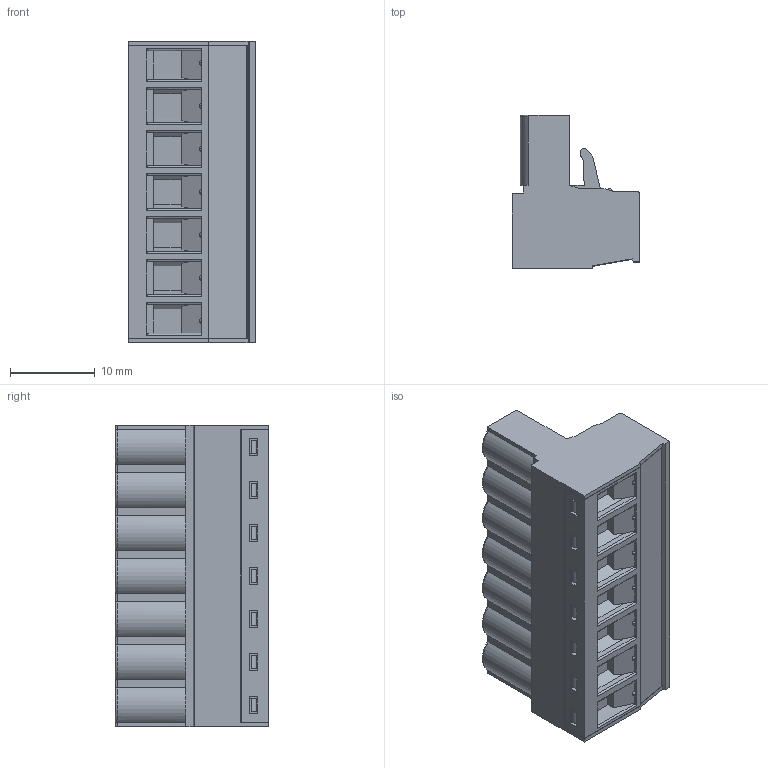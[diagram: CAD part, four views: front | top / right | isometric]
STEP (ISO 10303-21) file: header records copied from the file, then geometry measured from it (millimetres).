
FILE_DESCRIPTION (( 'STEP AP203' ), '1' );
FILE_NAME ('BR8F1-07.STEP', '2020-03-04T01:16:05', ( '' ), ( '' ), 'SwSTEP 2.0', 'SolidWorks 2019', '' );
FILE_SCHEMA (( 'CONFIG_CONTROL_DESIGN' ));
Length unit declared in the file: millimetre
Products named in the file (1): BR8F1-07
Bounding box: 15.05 x 18.1 x 35.56 mm (x, y, z)
Volume: 5670.3 mm3; surface area: 4885.9 mm2
Topology: 1 solids, 1 shells, 937 faces, 2499 edges, 1606 vertices
Faces by surface type: plane 585, cylinder 226, cone 56, torus 42, sphere 28
Entity records: 29624 total; most frequent: CARTESIAN_POINT 5953, ORIENTED_EDGE 4998, DIRECTION 4791, EDGE_CURVE 2499, LINE 1827, VECTOR 1827, VERTEX_POINT 1606, AXIS2_PLACEMENT_3D 1482
